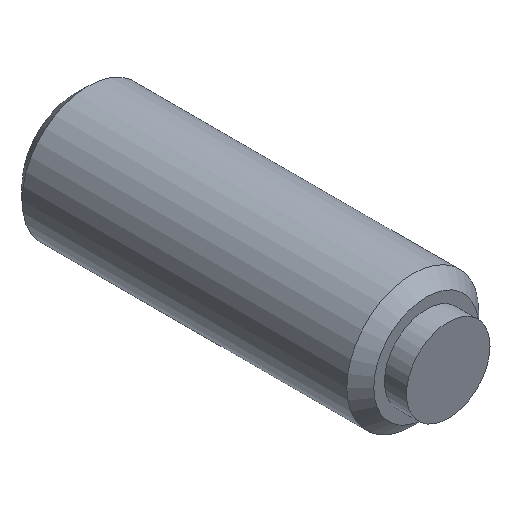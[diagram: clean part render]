
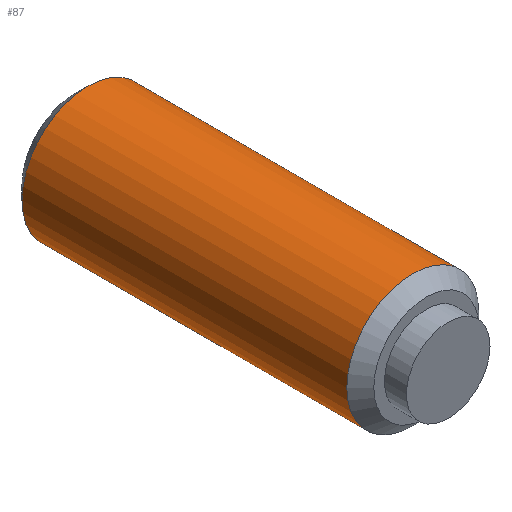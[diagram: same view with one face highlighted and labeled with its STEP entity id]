
A CAD part, isometric view. The second image highlights one B-rep face of the part: STEP entity #87.
In plain terms, the highlighted cylindrical face has radius 1.5 mm (diameter 3 mm), a full revolution.
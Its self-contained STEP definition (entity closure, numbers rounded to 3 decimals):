
#87 = ADVANCED_FACE( '', ( #118, #119 ), #120, .T. );
#118 = FACE_OUTER_BOUND( '', #152, .T. );
#119 = FACE_OUTER_BOUND( '', #153, .T. );
#120 = CYLINDRICAL_SURFACE( '', #154, 1.5 );
#152 = EDGE_LOOP( '', ( #238 ) );
#153 = EDGE_LOOP( '', ( #239 ) );
#154 = AXIS2_PLACEMENT_3D( '', #240, #241, #242 );
#238 = ORIENTED_EDGE( '', *, *, #270, .F. );
#239 = ORIENTED_EDGE( '', *, *, #271, .T. );
#240 = CARTESIAN_POINT( '', ( 0., 0., 0. ) );
#241 = DIRECTION( '', ( 0., 1., 0. ) );
#242 = DIRECTION( '', ( 0., 0., -1. ) );
#270 = EDGE_CURVE( '', #310, #310, #311, .T. );
#271 = EDGE_CURVE( '', #312, #312, #313, .T. );
#310 = VERTEX_POINT( '', #370 );
#311 = CIRCLE( '', #371, 1.5 );
#312 = VERTEX_POINT( '', #372 );
#313 = CIRCLE( '', #373, 1.5 );
#370 = CARTESIAN_POINT( '', ( 0., 0.807, -1.5 ) );
#371 = AXIS2_PLACEMENT_3D( '', #404, #405, #406 );
#372 = CARTESIAN_POINT( '', ( 0., 8.194, -1.5 ) );
#373 = AXIS2_PLACEMENT_3D( '', #407, #408, #409 );
#404 = CARTESIAN_POINT( '', ( 0., 0.807, 0. ) );
#405 = DIRECTION( '', ( 0., -1., 0. ) );
#406 = DIRECTION( '', ( 0., 0., -1. ) );
#407 = CARTESIAN_POINT( '', ( 0., 8.194, 0. ) );
#408 = DIRECTION( '', ( 0., -1., 0. ) );
#409 = DIRECTION( '', ( 0., 0., -1. ) );
